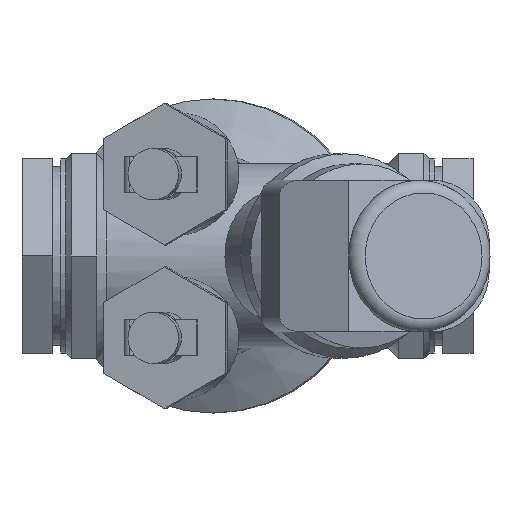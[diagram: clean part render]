
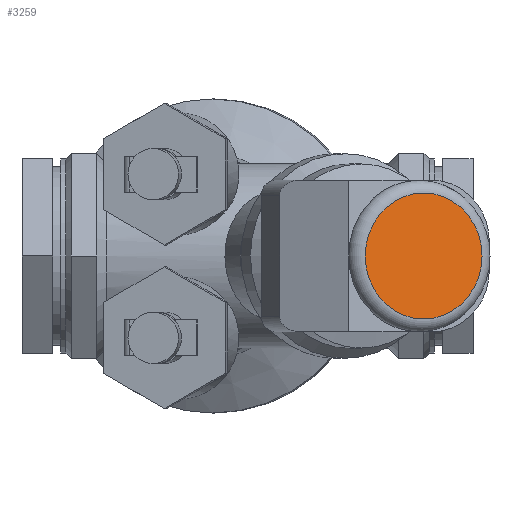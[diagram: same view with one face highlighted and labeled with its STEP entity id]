
A CAD part, front view. The second image highlights one B-rep face of the part: STEP entity #3259.
In plain terms, the highlighted planar face has unit normal (0.375, -0.927, 0).
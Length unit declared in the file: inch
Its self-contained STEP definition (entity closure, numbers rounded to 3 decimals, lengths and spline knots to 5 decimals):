
#168=CIRCLE('',#3609,0.61577);
#169=CIRCLE('',#3610,0.61577);
#360=FACE_OUTER_BOUND('',#548,.T.);
#548=EDGE_LOOP('',(#2260,#2261));
#1332=VERTEX_POINT('',#5449);
#1333=VERTEX_POINT('',#5450);
#1685=EDGE_CURVE('',#1332,#1333,#168,.T.);
#1686=EDGE_CURVE('',#1333,#1332,#169,.T.);
#2260=ORIENTED_EDGE('',*,*,#1685,.T.);
#2261=ORIENTED_EDGE('',*,*,#1686,.T.);
#2932=PLANE('',#3612);
#3259=ADVANCED_FACE('',(#360),#2932,.T.);
#3609=AXIS2_PLACEMENT_3D('',#5451,#4176,#4177);
#3610=AXIS2_PLACEMENT_3D('',#5452,#4178,#4179);
#3612=AXIS2_PLACEMENT_3D('',#5454,#4182,#4183);
#4176=DIRECTION('center_axis',(0.375,-0.927,0.));
#4177=DIRECTION('ref_axis',(0.927,0.375,0.));
#4178=DIRECTION('center_axis',(0.375,-0.927,0.));
#4179=DIRECTION('ref_axis',(0.927,0.375,0.));
#4182=DIRECTION('center_axis',(0.375,-0.927,0.));
#4183=DIRECTION('ref_axis',(0.,0.,-1.));
#5449=CARTESIAN_POINT('',(1.15031,-4.4909,0.));
#5450=CARTESIAN_POINT('',(1.72124,-4.26023,0.61577));
#5451=CARTESIAN_POINT('Origin',(1.72124,-4.26023,0.));
#5452=CARTESIAN_POINT('Origin',(1.72124,-4.26023,0.));
#5454=CARTESIAN_POINT('Origin',(1.72124,-4.26023,0.));
